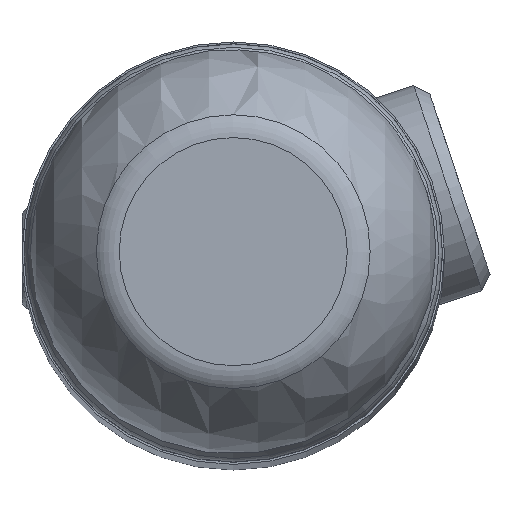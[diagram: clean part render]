
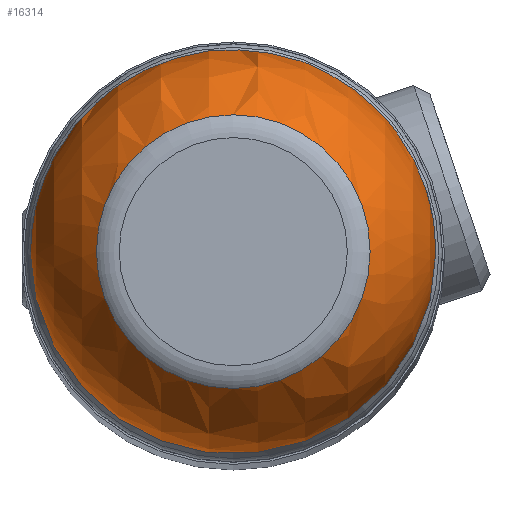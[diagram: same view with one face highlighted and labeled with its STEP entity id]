
A CAD part, top view. The second image highlights one B-rep face of the part: STEP entity #16314.
In plain terms, the highlighted spherical face has radius 12.186 mm.
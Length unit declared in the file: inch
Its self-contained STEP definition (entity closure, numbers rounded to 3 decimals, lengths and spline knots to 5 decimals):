
#38=SPHERICAL_SURFACE('',#17266,0.47975);
#614=FACE_BOUND('',#3386,.T.);
#615=FACE_BOUND('',#3387,.T.);
#3386=EDGE_LOOP('',(#14637));
#3387=EDGE_LOOP('',(#14638));
#3898=CIRCLE('',#17264,0.32389);
#3899=CIRCLE('',#17267,0.26399);
#7757=VERTEX_POINT('',#37401);
#7758=VERTEX_POINT('',#37405);
#10087=EDGE_CURVE('',#7757,#7757,#3898,.T.);
#10088=EDGE_CURVE('',#7758,#7758,#3899,.T.);
#14637=ORIENTED_EDGE('',*,*,#10088,.F.);
#14638=ORIENTED_EDGE('',*,*,#10087,.F.);
#16314=ADVANCED_FACE('',(#614,#615),#38,.T.);
#17264=AXIS2_PLACEMENT_3D('',#37402,#20025,#20026);
#17266=AXIS2_PLACEMENT_3D('',#37404,#20029,#20030);
#17267=AXIS2_PLACEMENT_3D('',#37406,#20031,#20032);
#20025=DIRECTION('center_axis',(1.,0.,0.));
#20026=DIRECTION('ref_axis',(0.,0.,-1.));
#20029=DIRECTION('center_axis',(0.,0.,1.));
#20030=DIRECTION('ref_axis',(1.,0.,0.));
#20031=DIRECTION('center_axis',(-1.,0.,0.));
#20032=DIRECTION('ref_axis',(0.,-1.,0.));
#37401=CARTESIAN_POINT('',(-0.06494,1.07816,0.32389));
#37402=CARTESIAN_POINT('Origin',(-0.06494,1.07816,0.));
#37404=CARTESIAN_POINT('Origin',(-0.41886,1.07816,0.));
#37405=CARTESIAN_POINT('',(-0.81944,1.34215,0.));
#37406=CARTESIAN_POINT('Origin',(-0.81944,1.07816,0.));
